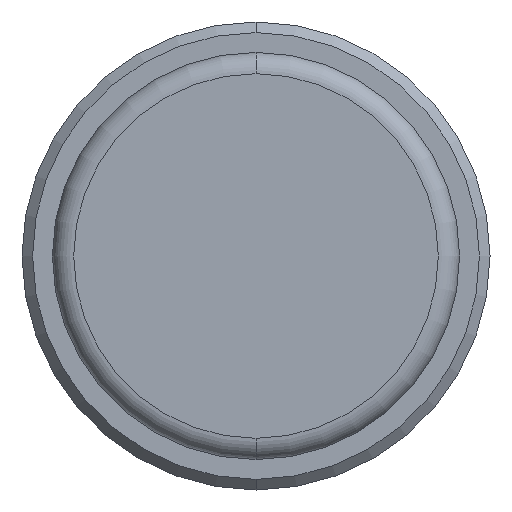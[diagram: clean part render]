
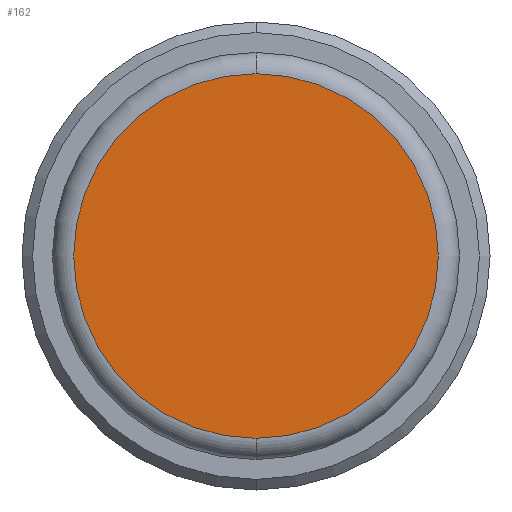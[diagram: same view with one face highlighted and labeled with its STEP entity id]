
A CAD part, front view. The second image highlights one B-rep face of the part: STEP entity #162.
In plain terms, the highlighted planar face has unit normal (0, -1, 0).
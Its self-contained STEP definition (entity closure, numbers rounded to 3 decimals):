
#35 = AXIS2_PLACEMENT_3D ( 'NONE', #136, #130, #703 ) ;
#50 = CIRCLE ( 'NONE', #35, 4.285 ) ;
#60 = AXIS2_PLACEMENT_3D ( 'NONE', #433, #297, #789 ) ;
#79 = PLANE ( 'NONE',  #60 ) ;
#130 = DIRECTION ( 'NONE',  ( 0., -1., 0. ) ) ;
#136 = CARTESIAN_POINT ( 'NONE',  ( 0., 0., 0. ) ) ;
#153 = CARTESIAN_POINT ( 'NONE',  ( 0., 0., 4.285 ) ) ;
#162 = ADVANCED_FACE ( 'NONE', ( #563 ), #79, .T. ) ;
#208 = CARTESIAN_POINT ( 'NONE',  ( 0., 0., -4.285 ) ) ;
#238 = EDGE_LOOP ( 'NONE', ( #677, #585 ) ) ;
#297 = DIRECTION ( 'NONE',  ( 0., -1., 0. ) ) ;
#433 = CARTESIAN_POINT ( 'NONE',  ( 0., 0., 0. ) ) ;
#453 = DIRECTION ( 'NONE',  ( 0., -1., 0. ) ) ;
#455 = DIRECTION ( 'NONE',  ( 0., 0., -1. ) ) ;
#563 = FACE_OUTER_BOUND ( 'NONE', #238, .T. ) ;
#585 = ORIENTED_EDGE ( 'NONE', *, *, #879, .T. ) ;
#616 = EDGE_CURVE ( 'NONE', #852, #630, #748, .T. ) ;
#630 = VERTEX_POINT ( 'NONE', #153 ) ;
#677 = ORIENTED_EDGE ( 'NONE', *, *, #616, .T. ) ;
#703 = DIRECTION ( 'NONE',  ( 0., 0., -1. ) ) ;
#748 = CIRCLE ( 'NONE', #909, 4.285 ) ;
#789 = DIRECTION ( 'NONE',  ( 0., 0., -1. ) ) ;
#812 = CARTESIAN_POINT ( 'NONE',  ( 0., 0., 0. ) ) ;
#852 = VERTEX_POINT ( 'NONE', #208 ) ;
#879 = EDGE_CURVE ( 'NONE', #630, #852, #50, .T. ) ;
#909 = AXIS2_PLACEMENT_3D ( 'NONE', #812, #453, #455 ) ;
